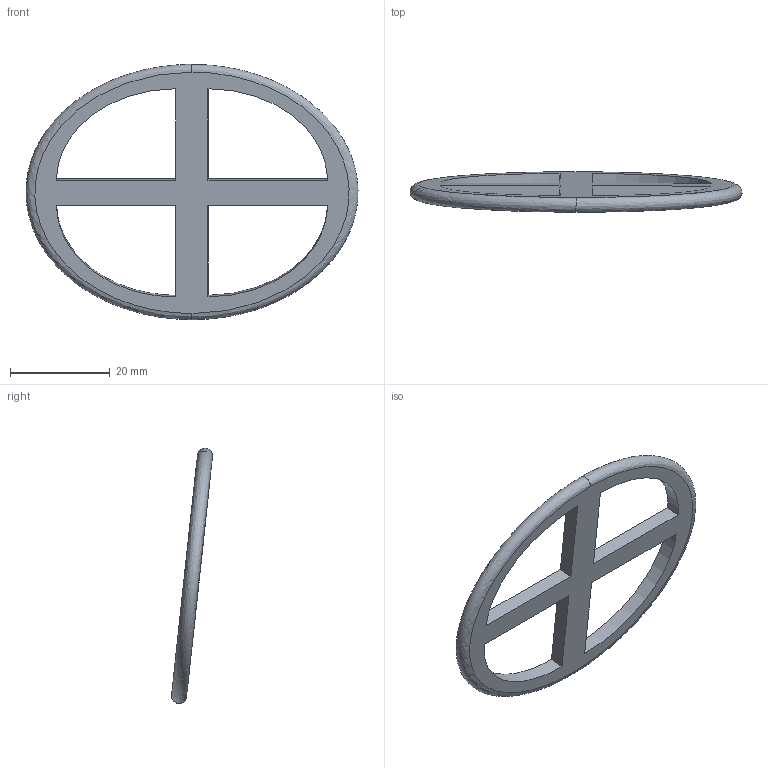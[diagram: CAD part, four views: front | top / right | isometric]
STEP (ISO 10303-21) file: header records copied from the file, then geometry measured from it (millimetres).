
FILE_DESCRIPTION(/* description */ (''),/* implementation_level */ '2;1');
FILE_NAME(/* name */ 'XS-MED~3',/* time_stamp */ '2020-04-10T21:57:00+03:00',/* author */ (''),/* organization */ (''),/* preprocessor_version */ 'ST-DEVELOPER v16.5',/* originating_system */ '',/* authorisation */ '');
FILE_SCHEMA (('AUTOMOTIVE_DESIGN'));
Length unit declared in the file: millimetre
Products named in the file (1): Document
Bounding box: 66.73 x 8.23 x 51.3 mm (x, y, z)
Volume: 3730.9 mm3; surface area: 3836.9 mm2
Topology: 1 solids, 1 shells, 18 faces, 46 edges, 30 vertices
Faces by surface type: plane 10, bspline 8
Entity records: 1332 total; most frequent: CARTESIAN_POINT 1006, ORIENTED_EDGE 92, EDGE_CURVE 46, VERTEX_POINT 30, EDGE_LOOP 26, B_SPLINE_CURVE_WITH_KNOTS 24, ADVANCED_FACE 18, FACE_OUTER_BOUND 18
